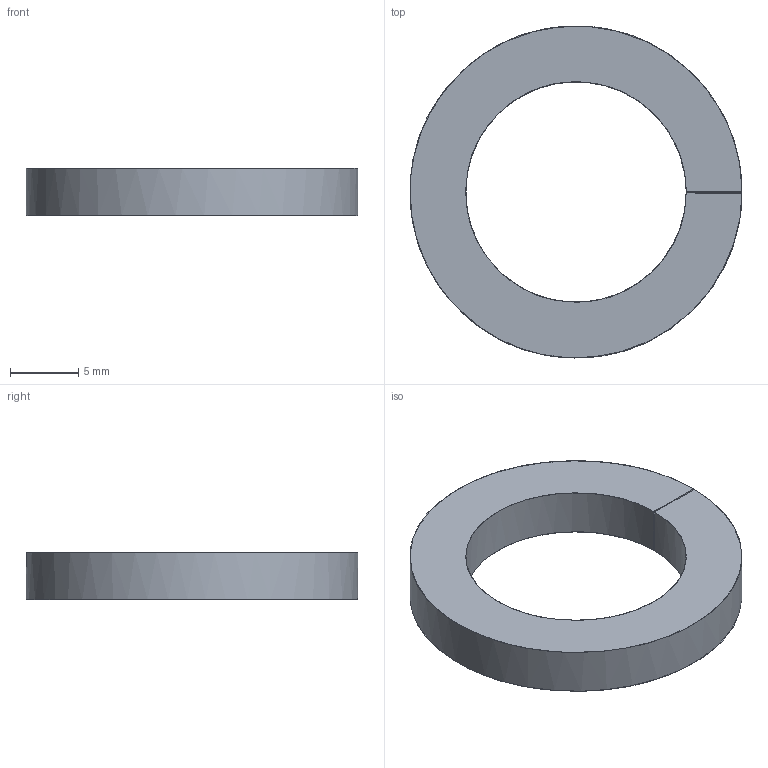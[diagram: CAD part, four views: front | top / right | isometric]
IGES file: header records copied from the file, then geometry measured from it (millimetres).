
Global section: file name: E:\UnigraphicsGraphicData\MISUMI_PRESS-PARTS\IGES\3d_cbw16_06369_r00.igs; native system: NX V5.0; preprocessor: UGS NX IGES V5.0; author: MISUMI; date: 20110105.160204; units: millimetre
Bounding box: 24.4 x 24.4 x 3.5 mm (x, y, z)
Surface area: 999.3 mm2 (no closed solid volume)
Topology: 0 solids, 0 shells, 6 faces, 52 edges, 52 vertices
Faces by surface type: bspline 6
